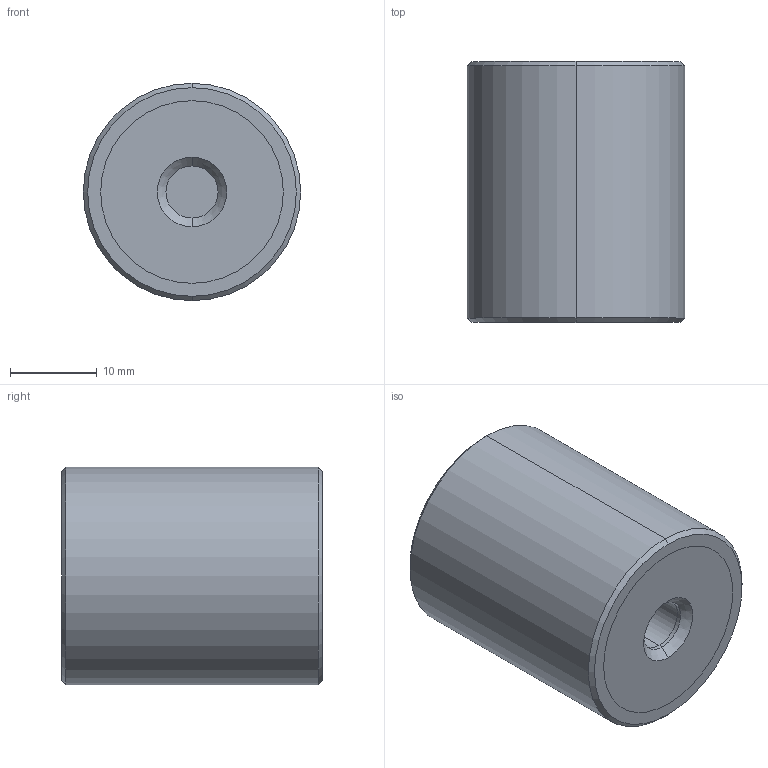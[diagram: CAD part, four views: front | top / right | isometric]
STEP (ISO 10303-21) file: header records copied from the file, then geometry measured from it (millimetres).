
FILE_DESCRIPTION (( 'STEP AP203' ), '1' );
FILE_NAME ('61080.W0253.step', '2018-07-16T20:43:26', ( '' ), ( '' ), 'SwSTEP 2.0', 'SolidWorks 2017', '' );
FILE_SCHEMA (( 'CONFIG_CONTROL_DESIGN' ));
Length unit declared in the file: millimetre
Products named in the file (4): Part3_61080.W0253; Part1_61080.W0253; 61080.W0253; Part2_61080.W0253
Assembly tree (3 placements, depth 2):
  61080.W0253
    Part1_61080.W0253
    Part2_61080.W0253
    Part3_61080.W0253
Bounding box: 25 x 30 x 25 mm (x, y, z)
Volume: 14346.6 mm3; surface area: 5166.2 mm2
Topology: 3 solids, 3 shells, 36 faces, 70 edges, 44 vertices
Faces by surface type: cylinder 18, plane 10, cone 8
Entity records: 1356 total; most frequent: DIRECTION 198, CARTESIAN_POINT 156, ORIENTED_EDGE 140, AXIS2_PLACEMENT_3D 86, EDGE_CURVE 70, VERTEX_POINT 44, EDGE_LOOP 44, CIRCLE 44
